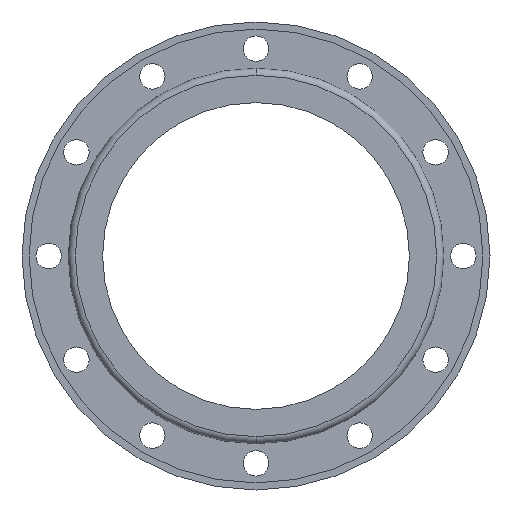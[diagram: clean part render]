
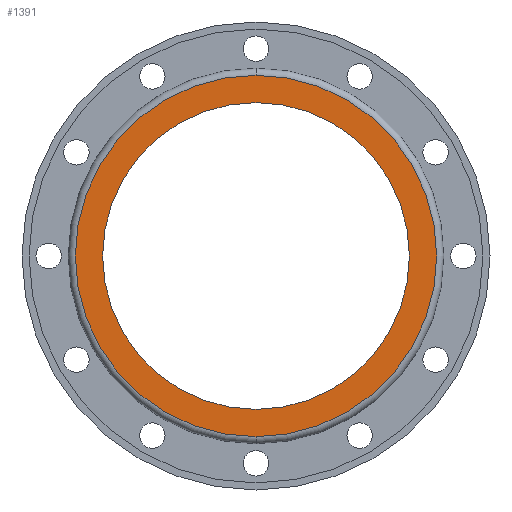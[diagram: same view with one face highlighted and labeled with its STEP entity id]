
A CAD part, front view. The second image highlights one B-rep face of the part: STEP entity #1391.
In plain terms, the highlighted planar face has unit normal (0, -1, 0).
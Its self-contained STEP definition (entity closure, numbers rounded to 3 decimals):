
#13 = CARTESIAN_POINT ( 'NONE',  ( 0., 0., -129.5 ) ) ;
#59 = CARTESIAN_POINT ( 'NONE',  ( -152.5, 0., 0. ) ) ;
#62 = VERTEX_POINT ( 'NONE', #13 ) ;
#79 = DIRECTION ( 'NONE',  ( 0., 1., 0. ) ) ;
#81 = FACE_BOUND ( 'NONE', #1119, .T. ) ;
#89 = VERTEX_POINT ( 'NONE', #571 ) ;
#145 = AXIS2_PLACEMENT_3D ( 'NONE', #305, #296, #1379 ) ;
#179 = DIRECTION ( 'NONE',  ( 0., 0., 1. ) ) ;
#296 = DIRECTION ( 'NONE',  ( 0., 1., 0. ) ) ;
#305 = CARTESIAN_POINT ( 'NONE',  ( 0., 0., 0. ) ) ;
#315 = ORIENTED_EDGE ( 'NONE', *, *, #738, .T. ) ;
#356 = EDGE_LOOP ( 'NONE', ( #436, #955 ) ) ;
#435 = DIRECTION ( 'NONE',  ( 0., 0., -1. ) ) ;
#436 = ORIENTED_EDGE ( 'NONE', *, *, #831, .F. ) ;
#447 = DIRECTION ( 'NONE',  ( 0., 1., 0. ) ) ;
#462 = FACE_OUTER_BOUND ( 'NONE', #356, .T. ) ;
#472 = CIRCLE ( 'NONE', #962, 152.5 ) ;
#522 = VERTEX_POINT ( 'NONE', #814 ) ;
#541 = EDGE_CURVE ( 'NONE', #1314, #62, #861, .T. ) ;
#571 = CARTESIAN_POINT ( 'NONE',  ( 0., 0., 152.5 ) ) ;
#654 = DIRECTION ( 'NONE',  ( 0., -1., 0. ) ) ;
#688 = DIRECTION ( 'NONE',  ( 0., 0., 1. ) ) ;
#738 = EDGE_CURVE ( 'NONE', #62, #1314, #1087, .T. ) ;
#775 = PLANE ( 'NONE',  #1029 ) ;
#776 = ORIENTED_EDGE ( 'NONE', *, *, #541, .T. ) ;
#814 = CARTESIAN_POINT ( 'NONE',  ( 0., 0., -152.5 ) ) ;
#820 = CARTESIAN_POINT ( 'NONE',  ( 0., 0., 0. ) ) ;
#831 = EDGE_CURVE ( 'NONE', #89, #522, #1490, .T. ) ;
#861 = CIRCLE ( 'NONE', #1234, 129.5 ) ;
#903 = EDGE_CURVE ( 'NONE', #522, #89, #472, .T. ) ;
#955 = ORIENTED_EDGE ( 'NONE', *, *, #903, .F. ) ;
#962 = AXIS2_PLACEMENT_3D ( 'NONE', #1291, #447, #688 ) ;
#1029 = AXIS2_PLACEMENT_3D ( 'NONE', #59, #654, #435 ) ;
#1087 = CIRCLE ( 'NONE', #1287, 129.5 ) ;
#1119 = EDGE_LOOP ( 'NONE', ( #776, #315 ) ) ;
#1132 = CARTESIAN_POINT ( 'NONE',  ( 0., 0., 0. ) ) ;
#1184 = DIRECTION ( 'NONE',  ( 0., 0., 1. ) ) ;
#1234 = AXIS2_PLACEMENT_3D ( 'NONE', #820, #1303, #1184 ) ;
#1287 = AXIS2_PLACEMENT_3D ( 'NONE', #1132, #79, #179 ) ;
#1291 = CARTESIAN_POINT ( 'NONE',  ( 0., 0., 0. ) ) ;
#1303 = DIRECTION ( 'NONE',  ( 0., 1., 0. ) ) ;
#1314 = VERTEX_POINT ( 'NONE', #1351 ) ;
#1351 = CARTESIAN_POINT ( 'NONE',  ( 0., 0., 129.5 ) ) ;
#1379 = DIRECTION ( 'NONE',  ( 0., 0., 1. ) ) ;
#1391 = ADVANCED_FACE ( 'NONE', ( #81, #462 ), #775, .T. ) ;
#1490 = CIRCLE ( 'NONE', #145, 152.5 ) ;
